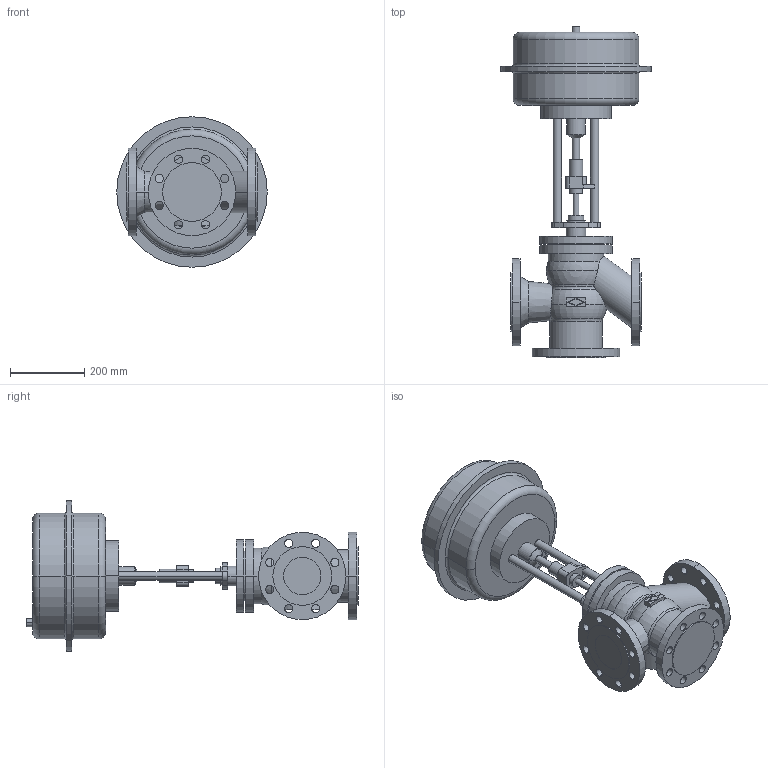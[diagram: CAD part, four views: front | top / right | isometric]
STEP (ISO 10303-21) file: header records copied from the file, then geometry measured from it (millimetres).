
FILE_DESCRIPTION(('OneSpaceDesigner STEP Export'),'2;1');
FILE_NAME('c000000701.stp','2006-09-19T10:21:17',(''),(''),'OneSpace Designer STEP processor for AP214 (Solid Model)','OneSpace Designer 13.20A 18-Aug-2005 (C) CoCreate Software GmbH','');
FILE_SCHEMA(('AUTOMOTIVE_DESIGN { 1 0 10303 214 1 1 1 1 }'));
Length unit declared in the file: millimetre
Products named in the file (2): 1; 2
Bounding box: 405 x 893.5 x 405 mm (x, y, z)
Volume: 30596371.5 mm3; surface area: 1135639.8 mm2
Topology: 2 solids, 2 shells, 212 faces, 527 edges, 343 vertices
Faces by surface type: cylinder 116, plane 64, torus 22, cone 6, sphere 4
Entity records: 5822 total; most frequent: CARTESIAN_POINT 1259, ORIENTED_EDGE 1046, DIRECTION 794, EDGE_CURVE 523, VERTEX_POINT 343, AXIS2_PLACEMENT_3D 296, EDGE_LOOP 288, FACE_OUTER_BOUND 212
